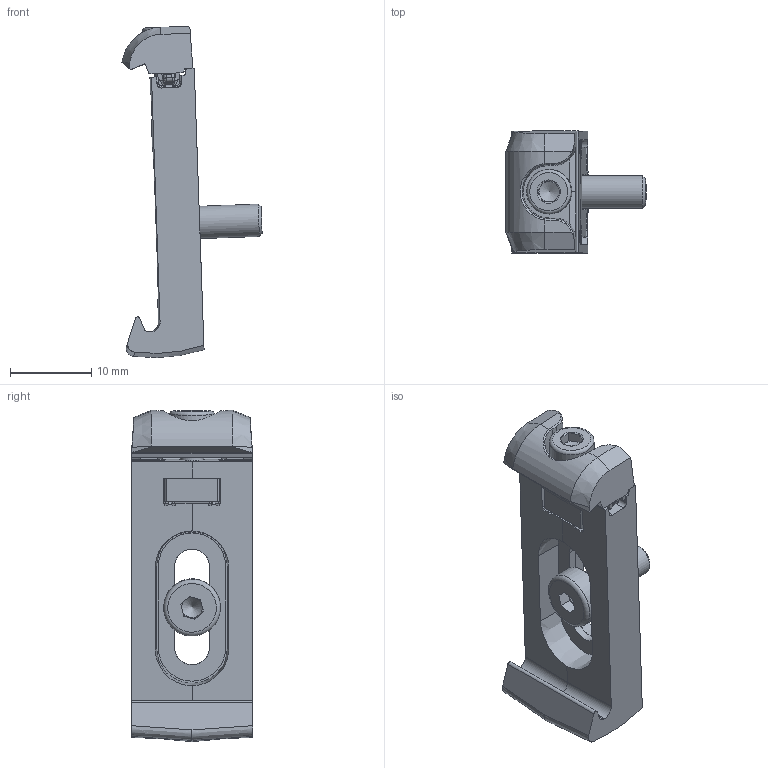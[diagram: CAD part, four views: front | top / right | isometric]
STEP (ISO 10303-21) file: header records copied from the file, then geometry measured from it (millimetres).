
FILE_DESCRIPTION(/* description */ (''),/* implementation_level */ '2;1');
FILE_NAME(/* name */ 'DSD-0659.stp',/* time_stamp */ '2015-12-15T11:02:04+01:00',/* author */ ('A. Di Chele'),/* organization */ ('Datalogic I.A.'),/* preprocessor_version */ 'ST-DEVELOPER v16',/* originating_system */ 'SIEMENS PLM Software NX 10.0',/* authorisation */ 'Confidential');
FILE_SCHEMA (('AUTOMOTIVE_DESIGN { 1 0 10303 214 3 1 1 1 }'));
Length unit declared in the file: millimetre
Products named in the file (1): adic1718F8ECe56q
Bounding box: 17.3 x 15 x 40.87 mm (x, y, z)
Surface area: 3652 mm2 (no closed solid volume)
Topology: 0 solids, 7 shells, 712 faces, 1859 edges, 1129 vertices
Faces by surface type: plane 252, cylinder 251, bspline 119, sphere 65, cone 21, extrusion 2, torus 2
Full cylindrical faces by diameter (mm): 2.95 x1, 4 x1, 5.5 x1, 7 x1
Entity records: 24054 total; most frequent: CARTESIAN_POINT 7213, ORIENTED_EDGE 3473, DIRECTION 3470, EDGE_CURVE 1838, AXIS2_PLACEMENT_3D 1264, VERTEX_POINT 1123, VECTOR 942, LINE 940
